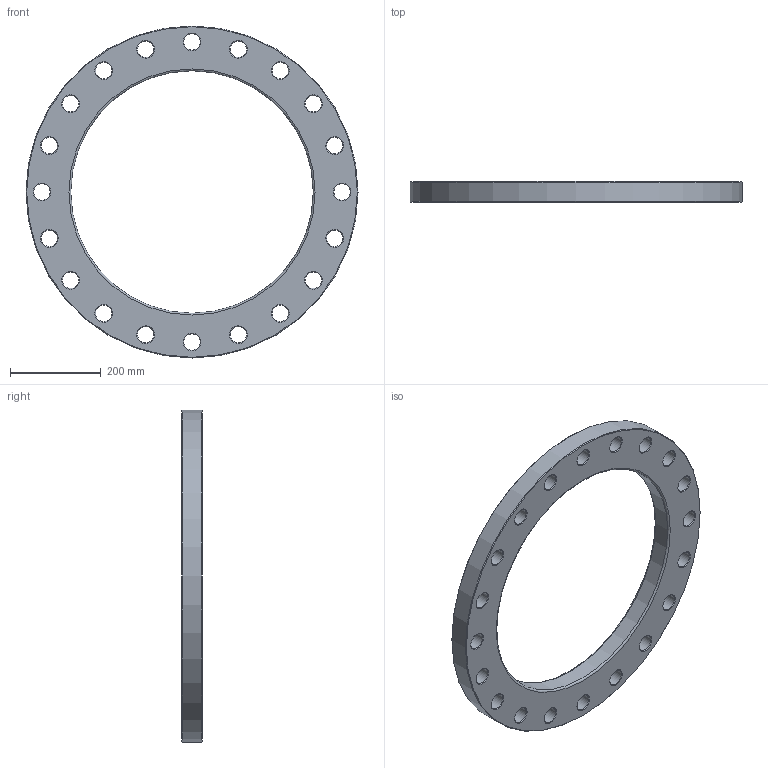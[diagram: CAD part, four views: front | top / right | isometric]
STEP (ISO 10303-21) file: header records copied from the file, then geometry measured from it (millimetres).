
FILE_DESCRIPTION(/* description */ ('Unknown'),/* implementation_level */ '2;1');
FILE_NAME(/* name */ 'FZ500H',/* time_stamp */ '2021-03-15T15:00:53+01:00',/* author */ ('Unknown'),/* organization */ ('Unknown'),/* preprocessor_version */ 'ST-DEVELOPER v16.7',/* originating_system */ 'Solid Edge',/* authorisation */ 'Unknown');
FILE_SCHEMA (('AUTOMOTIVE_DESIGN {1 0 10303 214 3 1 1}'));
Length unit declared in the file: millimetre
Products named in the file (1): FZ500H
Bounding box: 730 x 45 x 730 mm (x, y, z)
Volume: 7855696.9 mm3; surface area: 616827.1 mm2
Topology: 1 solids, 1 shells, 68 faces, 214 edges, 148 vertices
Faces by surface type: cone 42, cylinder 22, plane 2, torus 2
Full cylindrical faces by diameter (mm): 36 x20, 533 x1, 730 x1
Entity records: 1678 total; most frequent: DIRECTION 314, CARTESIAN_POINT 245, ORIENTED_EDGE 176, EDGE_LOOP 176, FACE_BOUND 176, AXIS2_PLACEMENT_3D 157, EDGE_CURVE 88, VERTEX_POINT 88
